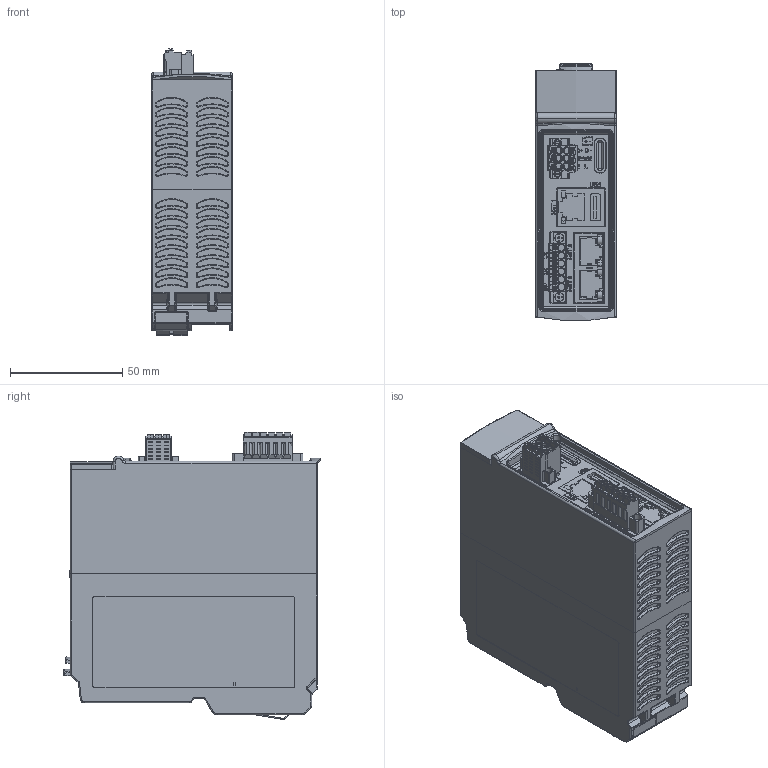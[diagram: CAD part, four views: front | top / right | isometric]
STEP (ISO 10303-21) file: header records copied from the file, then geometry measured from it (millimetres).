
FILE_DESCRIPTION (( 'STEP AP214' ), '1' );
FILE_NAME ('NX3008.STEP', '2022-10-24T19:41:36', ( '' ), ( '' ), 'SwSTEP 2.0', 'SolidWorks 2021', '' );
FILE_SCHEMA (( 'AUTOMOTIVE_DESIGN' ));
Length unit declared in the file: millimetre
Products named in the file (1): NX3008
Bounding box: 36 x 114.46 x 127.87 mm (x, y, z)
Volume: 411970.4 mm3; surface area: 73740.7 mm2
Topology: 18 solids, 20 shells, 4354 faces, 11332 edges, 7213 vertices
Faces by surface type: plane 1890, bspline 1238, cylinder 889, cone 277, torus 46, sphere 14
Entity records: 206981 total; most frequent: CARTESIAN_POINT 60678, ORIENTED_EDGE 22624, DIRECTION 17251, EDGE_CURVE 11312, VERTEX_POINT 7213, VECTOR 6185, LINE 6185, AXIS2_PLACEMENT_3D 5533
